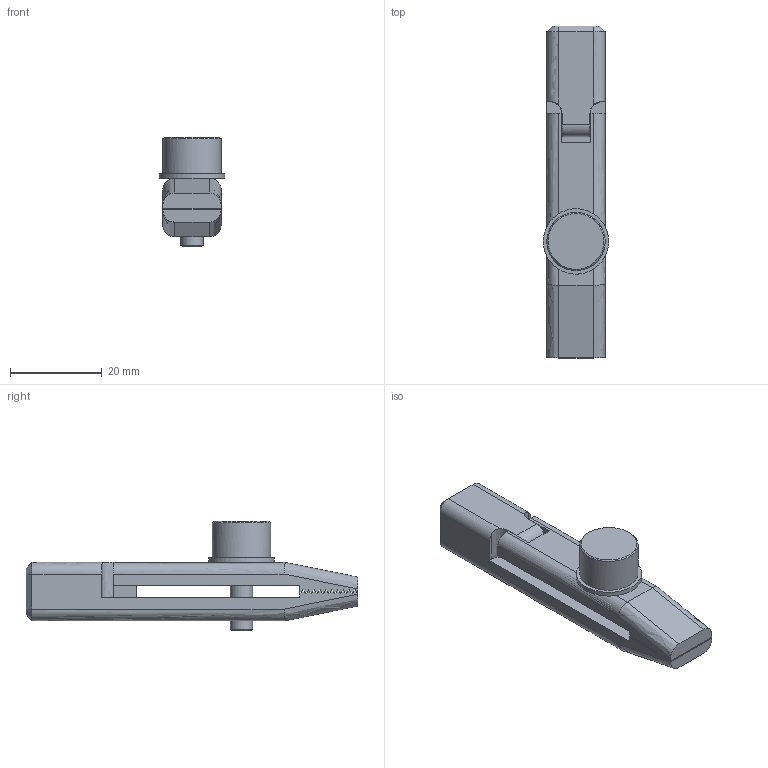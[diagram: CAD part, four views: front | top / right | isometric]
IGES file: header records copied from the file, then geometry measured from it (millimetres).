
Global section: file name: G1124; native system: Autodesk RealDWG; preprocessor: Autodesk Translation Framework DWG producer (atf_dwg_producer); organization: unknown; date: 20240409.152936; units: inch
Bounding box: 14.27 x 72.39 x 23.81 mm (x, y, z)
Volume: 10142.7 mm3; surface area: 6205 mm2
Topology: 3 solids, 3 shells, 105 faces, 281 edges, 185 vertices
Faces by surface type: bspline 105
